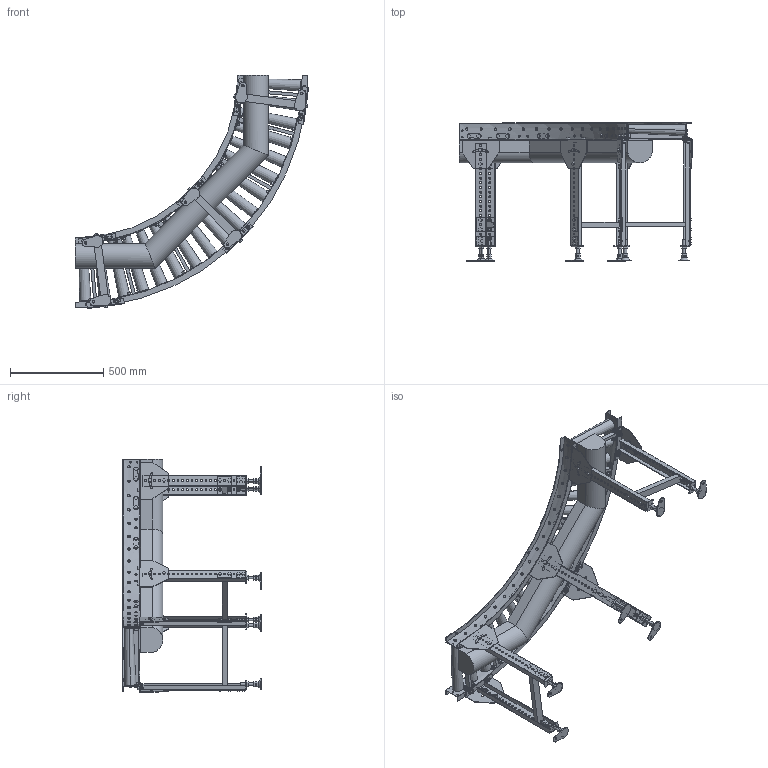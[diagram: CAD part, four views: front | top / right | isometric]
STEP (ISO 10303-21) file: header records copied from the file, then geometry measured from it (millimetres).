
FILE_DESCRIPTION (( 'STEP AP214' ), '1' );
FILE_NAME ('MCD50C9-90-315-100.STEP', '2022-08-01T07:47:00', ( '' ), ( '' ), 'SwSTEP 2.0', 'SolidWorks 2017', '' );
FILE_SCHEMA (( 'AUTOMOTIVE_DESIGN' ));
Length unit declared in the file: millimetre
Products named in the file (1): MCD50C9-90-315-100
Bounding box: 1248.76 x 740 x 1248.76 mm (x, y, z)
Volume: 40475837.3 mm3; surface area: 4327160.3 mm2
Topology: 28 solids, 58 shells, 3802 faces, 9068 edges, 5712 vertices
Faces by surface type: plane 2727, cylinder 1027, cone 48
Entity records: 161179 total; most frequent: CARTESIAN_POINT 28751, DIRECTION 19170, ORIENTED_EDGE 18136, EDGE_CURVE 9068, AXIS2_PLACEMENT_3D 6653, VECTOR 5864, LINE 5864, VERTEX_POINT 5712
